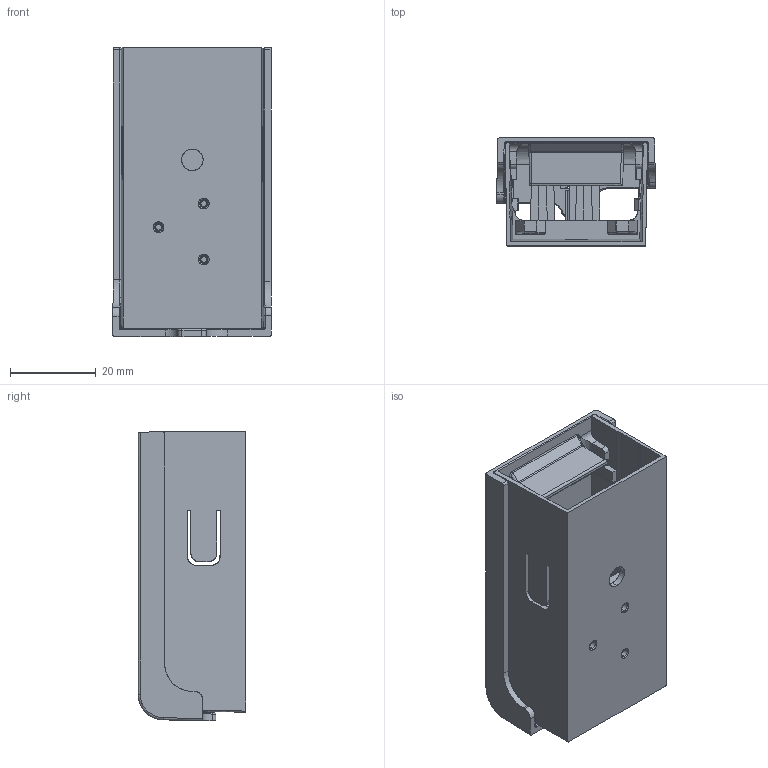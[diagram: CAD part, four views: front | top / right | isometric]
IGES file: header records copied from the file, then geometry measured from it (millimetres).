
Start section: SolidWorks IGES file using analytic representation for surfaces
Global section: file name: C:\Users\vuorinen_kari\Desktop\prj\P0007_vedonpoistaja\LL1X2130-SR.IGS; native system: SolidWorks 2014; preprocessor: SolidWorks 2014; author: vuorinen_kari; date: 170517.102053; units: millimetre
Bounding box: 36.97 x 25.1 x 67.4 mm (x, y, z)
Surface area: 21390.8 mm2 (no closed solid volume)
Topology: 0 solids, 0 shells, 1311 faces, 10091 edges, 10087 vertices
Faces by surface type: bspline 951, revolution 360
